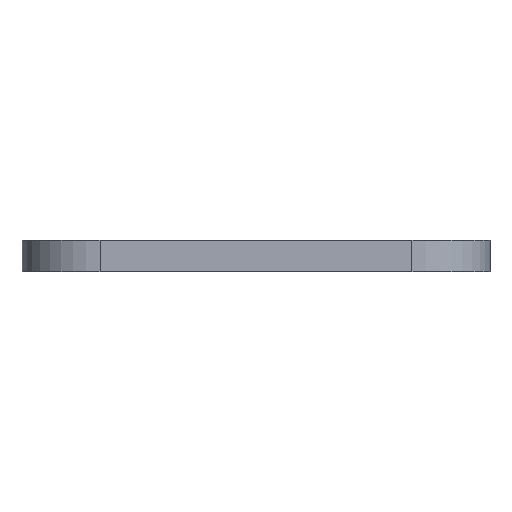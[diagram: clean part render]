
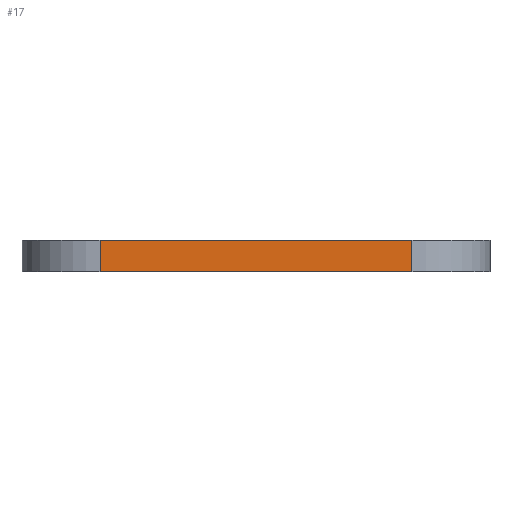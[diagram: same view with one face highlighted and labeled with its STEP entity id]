
A CAD part, left-side view. The second image highlights one B-rep face of the part: STEP entity #17.
In plain terms, the highlighted planar face has unit normal (-1, 0, 0).
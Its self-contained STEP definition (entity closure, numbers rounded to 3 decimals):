
#17 = ADVANCED_FACE('',(#18),#32,.F.);
#18 = FACE_BOUND('',#19,.F.);
#19 = EDGE_LOOP('',(#20,#55,#83,#111));
#20 = ORIENTED_EDGE('',*,*,#21,.F.);
#21 = EDGE_CURVE('',#22,#24,#26,.T.);
#22 = VERTEX_POINT('',#23);
#23 = CARTESIAN_POINT('',(-8.,-6.,0.6));
#24 = VERTEX_POINT('',#25);
#25 = CARTESIAN_POINT('',(-8.,6.,0.6));
#26 = SURFACE_CURVE('',#27,(#31,#43),.PCURVE_S1.);
#27 = LINE('',#28,#29);
#28 = CARTESIAN_POINT('',(-8.,-9.,0.6));
#29 = VECTOR('',#30,1.);
#30 = DIRECTION('',(0.,1.,0.));
#31 = PCURVE('',#32,#37);
#32 = PLANE('',#33);
#33 = AXIS2_PLACEMENT_3D('',#34,#35,#36);
#34 = CARTESIAN_POINT('',(-8.,-9.,-0.6));
#35 = DIRECTION('',(1.,0.,0.));
#36 = DIRECTION('',(0.,0.,1.));
#37 = DEFINITIONAL_REPRESENTATION('',(#38),#42);
#38 = LINE('',#39,#40);
#39 = CARTESIAN_POINT('',(1.2,0.));
#40 = VECTOR('',#41,1.);
#41 = DIRECTION('',(0.,-1.));
#42 = ( GEOMETRIC_REPRESENTATION_CONTEXT(2) 
PARAMETRIC_REPRESENTATION_CONTEXT() REPRESENTATION_CONTEXT('2D SPACE',''
  ) );
#43 = PCURVE('',#44,#49);
#44 = PLANE('',#45);
#45 = AXIS2_PLACEMENT_3D('',#46,#47,#48);
#46 = CARTESIAN_POINT('',(-8.,-9.,0.6));
#47 = DIRECTION('',(0.,0.,1.));
#48 = DIRECTION('',(1.,0.,0.));
#49 = DEFINITIONAL_REPRESENTATION('',(#50),#54);
#50 = LINE('',#51,#52);
#51 = CARTESIAN_POINT('',(0.,0.));
#52 = VECTOR('',#53,1.);
#53 = DIRECTION('',(0.,1.));
#54 = ( GEOMETRIC_REPRESENTATION_CONTEXT(2) 
PARAMETRIC_REPRESENTATION_CONTEXT() REPRESENTATION_CONTEXT('2D SPACE',''
  ) );
#55 = ORIENTED_EDGE('',*,*,#56,.F.);
#56 = EDGE_CURVE('',#57,#22,#59,.T.);
#57 = VERTEX_POINT('',#58);
#58 = CARTESIAN_POINT('',(-8.,-6.,-0.6));
#59 = SURFACE_CURVE('',#60,(#64,#71),.PCURVE_S1.);
#60 = LINE('',#61,#62);
#61 = CARTESIAN_POINT('',(-8.,-6.,-0.6));
#62 = VECTOR('',#63,1.);
#63 = DIRECTION('',(0.,0.,1.));
#64 = PCURVE('',#32,#65);
#65 = DEFINITIONAL_REPRESENTATION('',(#66),#70);
#66 = LINE('',#67,#68);
#67 = CARTESIAN_POINT('',(0.,-3.));
#68 = VECTOR('',#69,1.);
#69 = DIRECTION('',(1.,0.));
#70 = ( GEOMETRIC_REPRESENTATION_CONTEXT(2) 
PARAMETRIC_REPRESENTATION_CONTEXT() REPRESENTATION_CONTEXT('2D SPACE',''
  ) );
#71 = PCURVE('',#72,#77);
#72 = CYLINDRICAL_SURFACE('',#73,3.);
#73 = AXIS2_PLACEMENT_3D('',#74,#75,#76);
#74 = CARTESIAN_POINT('',(-5.,-6.,-0.6));
#75 = DIRECTION('',(0.,0.,1.));
#76 = DIRECTION('',(-1.,-0.,0.));
#77 = DEFINITIONAL_REPRESENTATION('',(#78),#82);
#78 = LINE('',#79,#80);
#79 = CARTESIAN_POINT('',(0.,0.));
#80 = VECTOR('',#81,1.);
#81 = DIRECTION('',(0.,1.));
#82 = ( GEOMETRIC_REPRESENTATION_CONTEXT(2) 
PARAMETRIC_REPRESENTATION_CONTEXT() REPRESENTATION_CONTEXT('2D SPACE',''
  ) );
#83 = ORIENTED_EDGE('',*,*,#84,.T.);
#84 = EDGE_CURVE('',#57,#85,#87,.T.);
#85 = VERTEX_POINT('',#86);
#86 = CARTESIAN_POINT('',(-8.,6.,-0.6));
#87 = SURFACE_CURVE('',#88,(#92,#99),.PCURVE_S1.);
#88 = LINE('',#89,#90);
#89 = CARTESIAN_POINT('',(-8.,-9.,-0.6));
#90 = VECTOR('',#91,1.);
#91 = DIRECTION('',(0.,1.,0.));
#92 = PCURVE('',#32,#93);
#93 = DEFINITIONAL_REPRESENTATION('',(#94),#98);
#94 = LINE('',#95,#96);
#95 = CARTESIAN_POINT('',(0.,0.));
#96 = VECTOR('',#97,1.);
#97 = DIRECTION('',(0.,-1.));
#98 = ( GEOMETRIC_REPRESENTATION_CONTEXT(2) 
PARAMETRIC_REPRESENTATION_CONTEXT() REPRESENTATION_CONTEXT('2D SPACE',''
  ) );
#99 = PCURVE('',#100,#105);
#100 = PLANE('',#101);
#101 = AXIS2_PLACEMENT_3D('',#102,#103,#104);
#102 = CARTESIAN_POINT('',(-8.,-9.,-0.6));
#103 = DIRECTION('',(0.,0.,1.));
#104 = DIRECTION('',(1.,0.,0.));
#105 = DEFINITIONAL_REPRESENTATION('',(#106),#110);
#106 = LINE('',#107,#108);
#107 = CARTESIAN_POINT('',(0.,0.));
#108 = VECTOR('',#109,1.);
#109 = DIRECTION('',(0.,1.));
#110 = ( GEOMETRIC_REPRESENTATION_CONTEXT(2) 
PARAMETRIC_REPRESENTATION_CONTEXT() REPRESENTATION_CONTEXT('2D SPACE',''
  ) );
#111 = ORIENTED_EDGE('',*,*,#112,.T.);
#112 = EDGE_CURVE('',#85,#24,#113,.T.);
#113 = SURFACE_CURVE('',#114,(#118,#125),.PCURVE_S1.);
#114 = LINE('',#115,#116);
#115 = CARTESIAN_POINT('',(-8.,6.,-0.6));
#116 = VECTOR('',#117,1.);
#117 = DIRECTION('',(0.,0.,1.));
#118 = PCURVE('',#32,#119);
#119 = DEFINITIONAL_REPRESENTATION('',(#120),#124);
#120 = LINE('',#121,#122);
#121 = CARTESIAN_POINT('',(0.,-15.));
#122 = VECTOR('',#123,1.);
#123 = DIRECTION('',(1.,0.));
#124 = ( GEOMETRIC_REPRESENTATION_CONTEXT(2) 
PARAMETRIC_REPRESENTATION_CONTEXT() REPRESENTATION_CONTEXT('2D SPACE',''
  ) );
#125 = PCURVE('',#126,#131);
#126 = CYLINDRICAL_SURFACE('',#127,3.);
#127 = AXIS2_PLACEMENT_3D('',#128,#129,#130);
#128 = CARTESIAN_POINT('',(-5.,6.,-0.6));
#129 = DIRECTION('',(0.,0.,1.));
#130 = DIRECTION('',(-1.,-0.,0.));
#131 = DEFINITIONAL_REPRESENTATION('',(#132),#136);
#132 = LINE('',#133,#134);
#133 = CARTESIAN_POINT('',(-0.,0.));
#134 = VECTOR('',#135,1.);
#135 = DIRECTION('',(-0.,1.));
#136 = ( GEOMETRIC_REPRESENTATION_CONTEXT(2) 
PARAMETRIC_REPRESENTATION_CONTEXT() REPRESENTATION_CONTEXT('2D SPACE',''
  ) );
